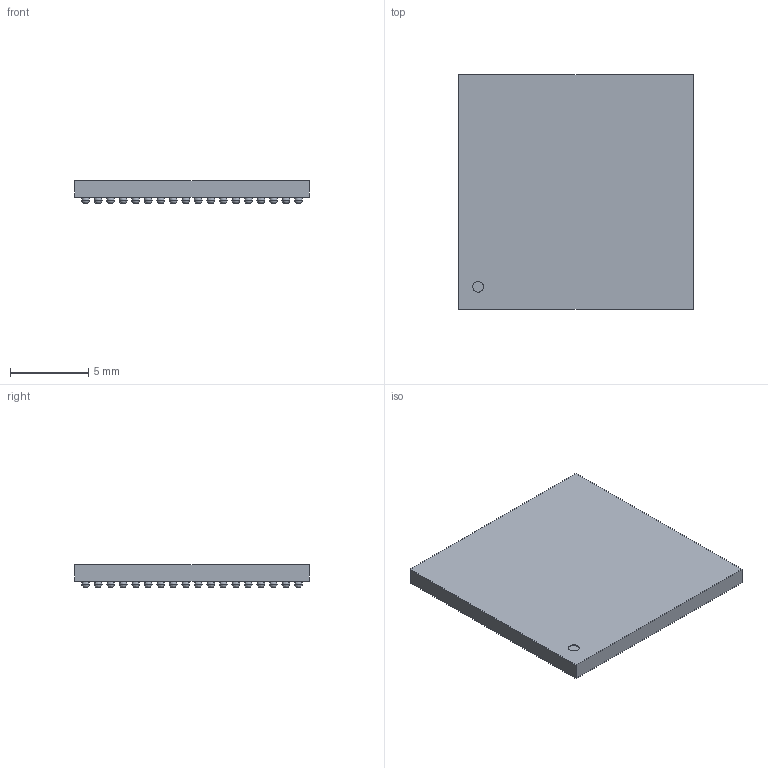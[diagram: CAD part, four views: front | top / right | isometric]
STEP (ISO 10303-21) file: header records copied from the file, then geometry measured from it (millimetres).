
FILE_DESCRIPTION (( 'STEP AP214' ), '1' );
FILE_NAME ('User Library-BGA288.STEP', '2023-05-04T08:16:52', ( '' ), ( '' ), 'SwSTEP 2.0', 'SolidWorks 2022', '' );
FILE_SCHEMA (( 'AUTOMOTIVE_DESIGN' ));
Length unit declared in the file: millimetre
Products named in the file (290): 7; 160; 210; 260; 266; 71; 151; 250; 198; 91; 39; 197; 11; 178; 259; 35; 129; 94; 173; 281; 119; 200; 14; 65; 161; 246; 47; 134; 163; 267; 231; 213; 188; 137; 264; 62; 131; 251; 100; 205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
Assembly tree (289 placements, depth 2):
  User Library-BGA288
    1
    2
    3
    4
    5
    6
    7
    8
    9
    10
    11
    12
    13
    14
    15
    16
    17
    18
    19
    20
    21
    22
    23
    24
    25
    26
    27
    28
    29
    30
    31
    32
    33
    34
    35
    36
    37
    38
    39
    40
    41
    42
    43
    44
    45
    46
    47
    48
    49
    50
    51
    52
    53
    54
    55
    56
    57
    58
    59
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Bounding box: 15 x 15 x 1.46 mm (x, y, z)
Volume: 256.8 mm3; surface area: 737.7 mm2
Topology: 289 solids, 289 shells, 873 faces, 2322 edges, 1164 vertices
Faces by surface type: bspline 576, plane 295, cylinder 2
Entity records: 65489 total; most frequent: CARTESIAN_POINT 30283, DIRECTION 2352, ORIENTED_EDGE 2340, UNCERTAINTY_MEASURE_WITH_UNIT 1741, PRESENTATION_STYLE_ASSIGNMENT 1451, MECHANICAL_DESIGN_GEOMETRIC_PRESENTATION_REPRESENTATION 1451, COLOUR_RGB 1451, STYLED_ITEM 1451
